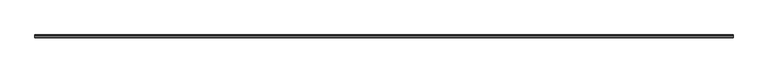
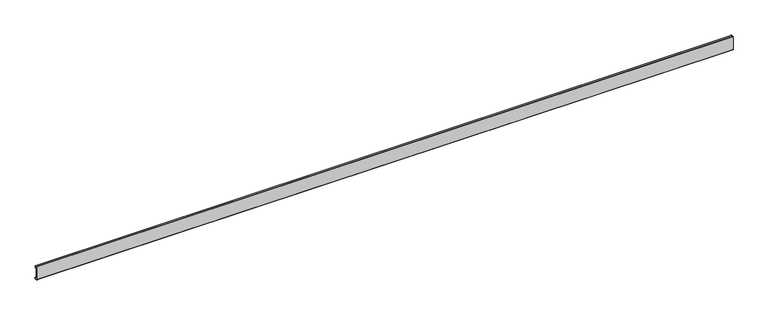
"""IFC4 building model written with IfcOpenShell, lengths in millimetres: proxy geometry, Weiku - Montante - Capa de folha 02.3.02.406 : Weiku - Montante - Capa de folha 02.3.02.406."""

from ifc_helpers import new_model, si_unit, point, frame, frame_2d, origin, place, context, project, spatial, polyline, circle_curve, trimmed, segment, composite_curve, outline, extrude, source, transform, mapped, element, save


def generic_models_3faf5ef5(model_context):
    return source(origin(), model_context, "Body", "SweptSolid", [
        extrude(outline(composite_curve([segment(polyline([(4.6421508, 2.2715508), (5.3603515, 1.056104)]), True, "CONTINUOUS"), segment(trimmed(circle_curve(frame_2d((4.7576991, 0.7)), 0.7), [point((5.3603515, 1.056104))], [point((4.7576991, 0.0))], False, "CARTESIAN"), True, "CONTINUOUS"), segment(polyline([(4.7576991, 0.0), (0.5, 0.0)]), True, "CONTINUOUS"), segment(trimmed(circle_curve(frame_2d((0.5, 0.5)), 0.5), [point((0.5, 0.0))], [point((0.0, 0.5))], False, "CARTESIAN"), True, "CONTINUOUS"), segment(polyline([(0.0, 0.5), (0.0, 26.2)]), True, "CONTINUOUS"), segment(trimmed(circle_curve(frame_2d((0.5, 26.2)), 0.5), [point((0.0, 26.2))], [point((0.5, 26.7))], False, "CARTESIAN"), True, "CONTINUOUS"), segment(polyline([(0.5, 26.7), (3.78, 26.7)]), True, "CONTINUOUS"), segment(trimmed(circle_curve(frame_2d((3.78, 26.2)), 0.5), [point((3.78, 26.7))], [point((4.28, 26.2))], False, "CARTESIAN"), True, "CONTINUOUS"), segment(polyline([(4.28, 26.2), (4.28, 22.3396), (3.3063, 22.3396), (3.3063, 25.684), (1.6933, 25.684), (1.6933, 1.016), (3.3866, 1.016), (4.6421508, 2.2715508)]), True, "CONTINUOUS")], self_intersect=False)), frame((-665.75, 0.0, 0.0), z_axis=(1.0, 0.0, 0.0), x_axis=(0.0, 1.0, 0.0)), (0.0, 0.0, 1.0), 1331.5),
    ])


if __name__ == "__main__":
    model = new_model("IFC4")
    model_context = context("Model", 3, world=origin())
    ifc_project = project(units=[si_unit("LENGTHUNIT", "METRE", prefix="MILLI")], contexts=[model_context])
    site = spatial("IfcSite", under=ifc_project)
    building = spatial("IfcBuilding", under=site)
    placement = place(None, origin())
    generic_models_shape = generic_models_3faf5ef5(model_context)
    element("IfcBuildingElementProxy", 1, Name="Weiku - Montante - Capa de folha 02.3.02.406 : Weiku - Montante - Capa de folha 02.3.02.406", ObjectType="Weiku - Montante - Capa de folha 02.3.02.406 : Weiku - Montante - Capa de folha 02.3.02.406", at=placement, inside=building, context=model_context, shape_type="MappedRepresentation", body=[
        mapped(generic_models_shape, transform((0.0, 0.0, 0.0), x_axis=(1.0, 0.0, 0.0), y_axis=(0.0, 1.0, 0.0), z_axis=(0.0, 0.0, 1.0))),
    ])
    save(model, "model.ifc")
